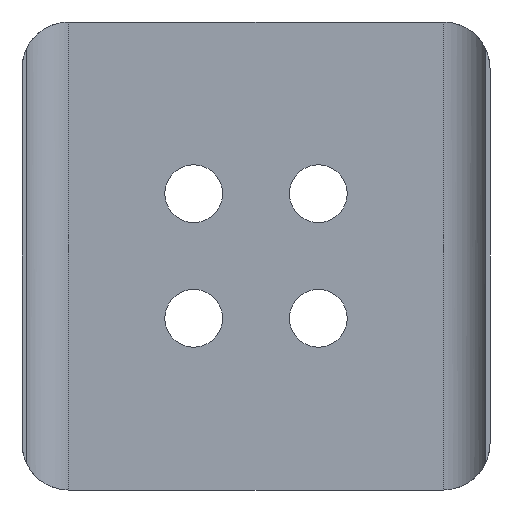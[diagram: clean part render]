
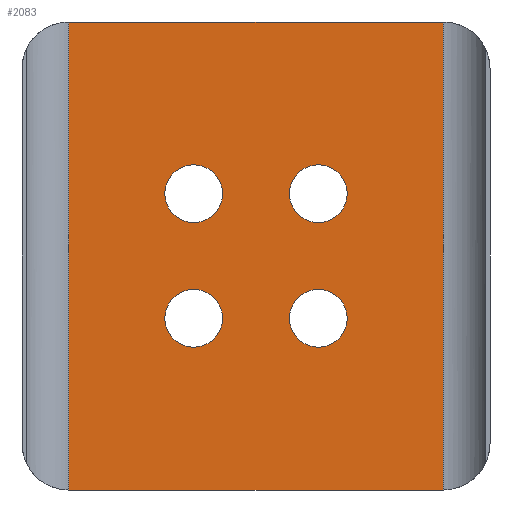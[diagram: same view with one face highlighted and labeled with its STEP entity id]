
A CAD part, front view. The second image highlights one B-rep face of the part: STEP entity #2083.
In plain terms, the highlighted planar face has unit normal (0, -1, 0).
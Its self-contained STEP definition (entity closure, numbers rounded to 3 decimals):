
#68 = CARTESIAN_POINT ( 'NONE',  ( 11.996, -0.65, -15. ) ) ;
#70 = VERTEX_POINT ( 'NONE', #1217 ) ;
#155 = CARTESIAN_POINT ( 'NONE',  ( 11.996, -0.65, -15. ) ) ;
#224 = DIRECTION ( 'NONE',  ( 0., -1., 0. ) ) ;
#306 = CIRCLE ( 'NONE', #587, 1.85 ) ;
#382 = FACE_BOUND ( 'NONE', #6977, .T. ) ;
#396 = VERTEX_POINT ( 'NONE', #2007 ) ;
#397 = ORIENTED_EDGE ( 'NONE', *, *, #702, .F. ) ;
#400 = DIRECTION ( 'NONE',  ( 0., -1., 0. ) ) ;
#427 = DIRECTION ( 'NONE',  ( 0., 0., 1. ) ) ;
#460 = DIRECTION ( 'NONE',  ( 0., 0., -1. ) ) ;
#475 = EDGE_CURVE ( 'NONE', #3750, #3658, #2441, .T. ) ;
#491 = ORIENTED_EDGE ( 'NONE', *, *, #475, .F. ) ;
#564 = DIRECTION ( 'NONE',  ( 0., -1., 0. ) ) ;
#587 = AXIS2_PLACEMENT_3D ( 'NONE', #2761, #6552, #646 ) ;
#632 = EDGE_LOOP ( 'NONE', ( #5475, #6679 ) ) ;
#646 = DIRECTION ( 'NONE',  ( 0., 0., -1. ) ) ;
#650 = ORIENTED_EDGE ( 'NONE', *, *, #2944, .T. ) ;
#702 = EDGE_CURVE ( 'NONE', #70, #3767, #994, .T. ) ;
#797 = CARTESIAN_POINT ( 'NONE',  ( -4., -0.65, 4. ) ) ;
#994 = CIRCLE ( 'NONE', #1122, 1.85 ) ;
#1036 = LINE ( 'NONE', #6344, #3721 ) ;
#1057 = FACE_BOUND ( 'NONE', #632, .T. ) ;
#1066 = CARTESIAN_POINT ( 'NONE',  ( 11.996, -0.65, -15. ) ) ;
#1122 = AXIS2_PLACEMENT_3D ( 'NONE', #3962, #224, #1845 ) ;
#1179 = DIRECTION ( 'NONE',  ( -1., 0., 0. ) ) ;
#1217 = CARTESIAN_POINT ( 'NONE',  ( 4., -0.65, 2.15 ) ) ;
#1346 = VERTEX_POINT ( 'NONE', #5314 ) ;
#1490 = ORIENTED_EDGE ( 'NONE', *, *, #3436, .F. ) ;
#1706 = DIRECTION ( 'NONE',  ( 0., 1., 0. ) ) ;
#1749 = FACE_BOUND ( 'NONE', #3892, .T. ) ;
#1843 = EDGE_CURVE ( 'NONE', #1862, #3223, #1036, .T. ) ;
#1845 = DIRECTION ( 'NONE',  ( 0., 0., -1. ) ) ;
#1862 = VERTEX_POINT ( 'NONE', #3674 ) ;
#1877 = CARTESIAN_POINT ( 'NONE',  ( -11.996, -0.65, 15. ) ) ;
#1896 = CARTESIAN_POINT ( 'NONE',  ( 4., -0.65, -5.85 ) ) ;
#1968 = CIRCLE ( 'NONE', #6807, 1.85 ) ;
#1998 = FACE_BOUND ( 'NONE', #2578, .T. ) ;
#2007 = CARTESIAN_POINT ( 'NONE',  ( 11.996, -0.65, 15. ) ) ;
#2082 = EDGE_CURVE ( 'NONE', #3767, #70, #306, .T. ) ;
#2083 = ADVANCED_FACE ( 'NONE', ( #1057, #1998, #382, #1749, #5877 ), #3322, .F. ) ;
#2092 = VECTOR ( 'NONE', #2398, 1000. ) ;
#2119 = EDGE_CURVE ( 'NONE', #1346, #6931, #2743, .T. ) ;
#2127 = DIRECTION ( 'NONE',  ( 0., 0., 1. ) ) ;
#2134 = ORIENTED_EDGE ( 'NONE', *, *, #2082, .F. ) ;
#2138 = ORIENTED_EDGE ( 'NONE', *, *, #5778, .T. ) ;
#2147 = CARTESIAN_POINT ( 'NONE',  ( -4., -0.65, 5.85 ) ) ;
#2376 = CARTESIAN_POINT ( 'NONE',  ( 4., -0.65, -2.15 ) ) ;
#2394 = ORIENTED_EDGE ( 'NONE', *, *, #5084, .F. ) ;
#2398 = DIRECTION ( 'NONE',  ( -1., 0., 0. ) ) ;
#2409 = ORIENTED_EDGE ( 'NONE', *, *, #1843, .F. ) ;
#2441 = CIRCLE ( 'NONE', #3064, 1.85 ) ;
#2565 = CARTESIAN_POINT ( 'NONE',  ( 4., -0.65, 5.85 ) ) ;
#2572 = CIRCLE ( 'NONE', #6269, 1.85 ) ;
#2578 = EDGE_LOOP ( 'NONE', ( #1490, #491 ) ) ;
#2589 = DIRECTION ( 'NONE',  ( 0., -1., 0. ) ) ;
#2632 = LINE ( 'NONE', #1066, #4745 ) ;
#2737 = VERTEX_POINT ( 'NONE', #6175 ) ;
#2743 = CIRCLE ( 'NONE', #5796, 1.85 ) ;
#2761 = CARTESIAN_POINT ( 'NONE',  ( 4., -0.65, 4. ) ) ;
#2807 = LINE ( 'NONE', #3222, #4992 ) ;
#2812 = DIRECTION ( 'NONE',  ( -1., 0., 0. ) ) ;
#2881 = DIRECTION ( 'NONE',  ( 0., 0., -1. ) ) ;
#2944 = EDGE_CURVE ( 'NONE', #3435, #396, #2632, .T. ) ;
#3002 = DIRECTION ( 'NONE',  ( 0., 0., -1. ) ) ;
#3064 = AXIS2_PLACEMENT_3D ( 'NONE', #3611, #2589, #460 ) ;
#3170 = CARTESIAN_POINT ( 'NONE',  ( -4., -0.65, 4. ) ) ;
#3189 = DIRECTION ( 'NONE',  ( 0., -1., 0. ) ) ;
#3222 = CARTESIAN_POINT ( 'NONE',  ( 11.996, -0.65, 15. ) ) ;
#3223 = VERTEX_POINT ( 'NONE', #1877 ) ;
#3322 = PLANE ( 'NONE',  #4924 ) ;
#3431 = DIRECTION ( 'NONE',  ( 0., -1., 0. ) ) ;
#3435 = VERTEX_POINT ( 'NONE', #4785 ) ;
#3436 = EDGE_CURVE ( 'NONE', #3658, #3750, #1968, .T. ) ;
#3455 = ORIENTED_EDGE ( 'NONE', *, *, #2119, .F. ) ;
#3611 = CARTESIAN_POINT ( 'NONE',  ( 4., -0.65, -4. ) ) ;
#3658 = VERTEX_POINT ( 'NONE', #1896 ) ;
#3674 = CARTESIAN_POINT ( 'NONE',  ( -11.996, -0.65, -15. ) ) ;
#3719 = AXIS2_PLACEMENT_3D ( 'NONE', #3170, #564, #5899 ) ;
#3721 = VECTOR ( 'NONE', #427, 1000. ) ;
#3750 = VERTEX_POINT ( 'NONE', #2376 ) ;
#3767 = VERTEX_POINT ( 'NONE', #2565 ) ;
#3870 = CARTESIAN_POINT ( 'NONE',  ( -4., -0.65, -4. ) ) ;
#3892 = EDGE_LOOP ( 'NONE', ( #3455, #3906 ) ) ;
#3906 = ORIENTED_EDGE ( 'NONE', *, *, #6861, .F. ) ;
#3962 = CARTESIAN_POINT ( 'NONE',  ( 4., -0.65, 4. ) ) ;
#3978 = LINE ( 'NONE', #155, #2092 ) ;
#4169 = DIRECTION ( 'NONE',  ( 0., 0., -1. ) ) ;
#4211 = CARTESIAN_POINT ( 'NONE',  ( -4., -0.65, -4. ) ) ;
#4700 = EDGE_CURVE ( 'NONE', #2737, #6165, #2572, .T. ) ;
#4737 = DIRECTION ( 'NONE',  ( 0., 0., -1. ) ) ;
#4745 = VECTOR ( 'NONE', #2127, 1000. ) ;
#4785 = CARTESIAN_POINT ( 'NONE',  ( 11.996, -0.65, -15. ) ) ;
#4924 = AXIS2_PLACEMENT_3D ( 'NONE', #68, #1706, #1179 ) ;
#4992 = VECTOR ( 'NONE', #2812, 1000. ) ;
#5074 = CARTESIAN_POINT ( 'NONE',  ( -4., -0.65, -2.15 ) ) ;
#5084 = EDGE_CURVE ( 'NONE', #3435, #1862, #3978, .T. ) ;
#5314 = CARTESIAN_POINT ( 'NONE',  ( -4., -0.65, 2.15 ) ) ;
#5450 = AXIS2_PLACEMENT_3D ( 'NONE', #3870, #3431, #2881 ) ;
#5475 = ORIENTED_EDGE ( 'NONE', *, *, #4700, .F. ) ;
#5778 = EDGE_CURVE ( 'NONE', #396, #3223, #2807, .T. ) ;
#5796 = AXIS2_PLACEMENT_3D ( 'NONE', #797, #6236, #3002 ) ;
#5823 = CARTESIAN_POINT ( 'NONE',  ( 4., -0.65, -4. ) ) ;
#5877 = FACE_OUTER_BOUND ( 'NONE', #6930, .T. ) ;
#5899 = DIRECTION ( 'NONE',  ( 0., 0., -1. ) ) ;
#6039 = EDGE_CURVE ( 'NONE', #6165, #2737, #6954, .T. ) ;
#6096 = CIRCLE ( 'NONE', #3719, 1.85 ) ;
#6165 = VERTEX_POINT ( 'NONE', #5074 ) ;
#6175 = CARTESIAN_POINT ( 'NONE',  ( -4., -0.65, -5.85 ) ) ;
#6236 = DIRECTION ( 'NONE',  ( 0., -1., 0. ) ) ;
#6269 = AXIS2_PLACEMENT_3D ( 'NONE', #4211, #3189, #4737 ) ;
#6344 = CARTESIAN_POINT ( 'NONE',  ( -11.996, -0.65, -15. ) ) ;
#6552 = DIRECTION ( 'NONE',  ( 0., -1., 0. ) ) ;
#6679 = ORIENTED_EDGE ( 'NONE', *, *, #6039, .F. ) ;
#6807 = AXIS2_PLACEMENT_3D ( 'NONE', #5823, #400, #4169 ) ;
#6861 = EDGE_CURVE ( 'NONE', #6931, #1346, #6096, .T. ) ;
#6930 = EDGE_LOOP ( 'NONE', ( #2409, #2394, #650, #2138 ) ) ;
#6931 = VERTEX_POINT ( 'NONE', #2147 ) ;
#6954 = CIRCLE ( 'NONE', #5450, 1.85 ) ;
#6977 = EDGE_LOOP ( 'NONE', ( #397, #2134 ) ) ;
